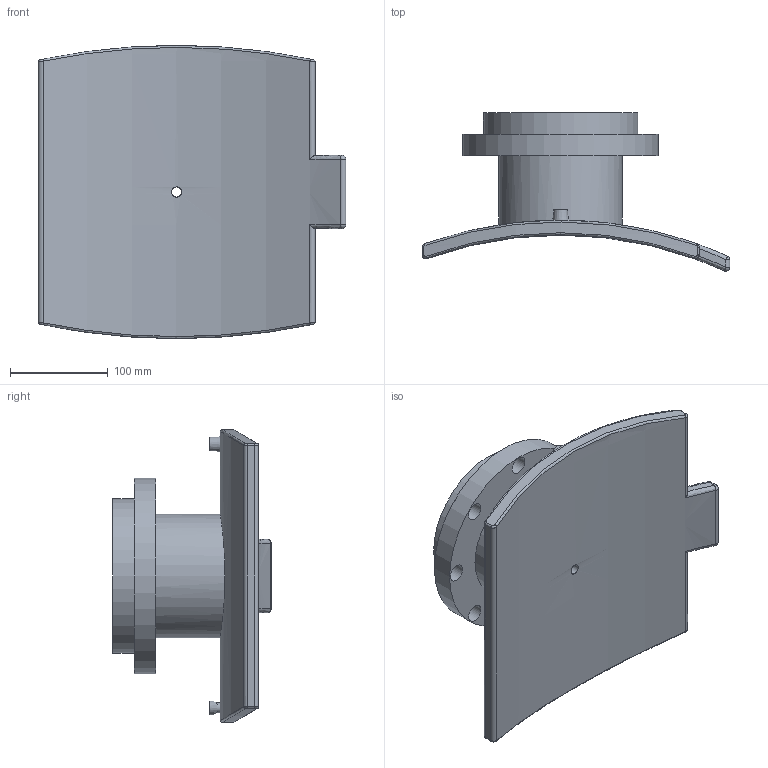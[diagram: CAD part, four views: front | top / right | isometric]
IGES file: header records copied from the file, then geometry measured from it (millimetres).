
Global section: file name: 495804710090T.ipt; native system: Autodesk Inventor 2015; preprocessor: unknown; author: KIM; date: 20171106.094400; units: millimetre
Bounding box: 315 x 162.15 x 300 mm (x, y, z)
Volume: 2351299.5 mm3; surface area: 327131.1 mm2
Topology: 2 solids, 2 shells, 75 faces, 164 edges, 103 vertices
Faces by surface type: cylinder 24, revolution 17, plane 16, bspline 12, sphere 4, cone 2
Full cylindrical faces by diameter (mm): 4 x2, 16 x1, 126.4 x1, 158 x1, 200 x1
